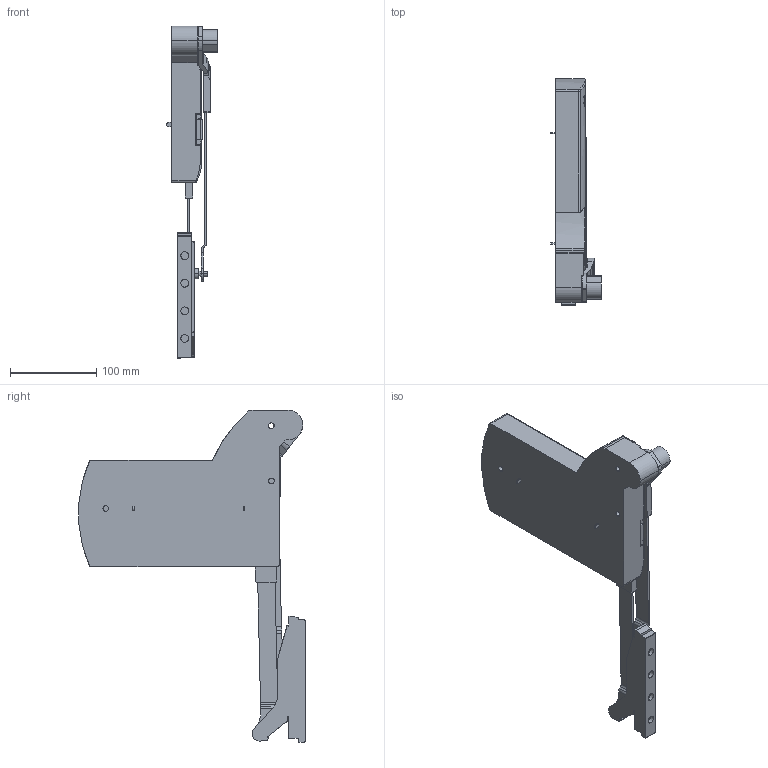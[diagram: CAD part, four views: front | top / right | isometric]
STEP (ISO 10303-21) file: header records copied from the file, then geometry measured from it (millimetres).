
FILE_DESCRIPTION (( 'STEP AP203' ), '1' );
FILE_NAME ('Kinvaro_L-80_Typ5_links_D2806015125~b.step', '2012-05-04T06:39:04', ( 'admin' ), ( 'Hewlett-Packard Company' ), 'SwSTEP 2.0', 'SolidWorks 2011', '' );
FILE_SCHEMA (( 'CONFIG_CONTROL_DESIGN' ));
Length unit declared in the file: millimetre
Products named in the file (1): Kinvaro_L-80_Typ5_links_D2806015125~b
Bounding box: 59 x 262.07 x 384.93 mm (x, y, z)
Volume: 1205682.9 mm3; surface area: 139944.2 mm2
Topology: 1 solids, 1 shells, 605 faces, 1673 edges, 1091 vertices
Faces by surface type: cylinder 324, plane 239, bspline 22, torus 18, sphere 2
Entity records: 20300 total; most frequent: CARTESIAN_POINT 4849, ORIENTED_EDGE 3340, DIRECTION 3170, EDGE_CURVE 1670, AXIS2_PLACEMENT_3D 1140, VERTEX_POINT 1091, VECTOR 890, LINE 890
